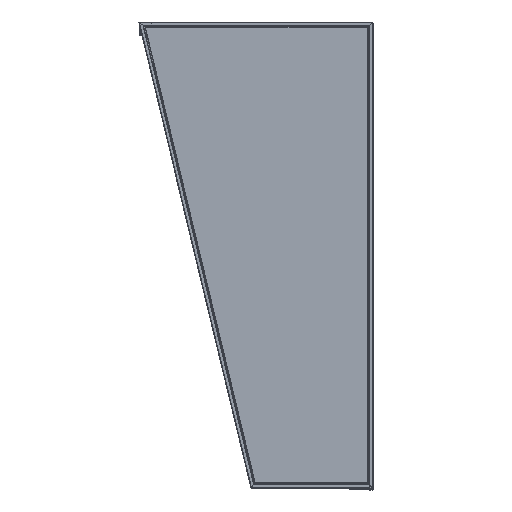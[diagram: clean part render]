
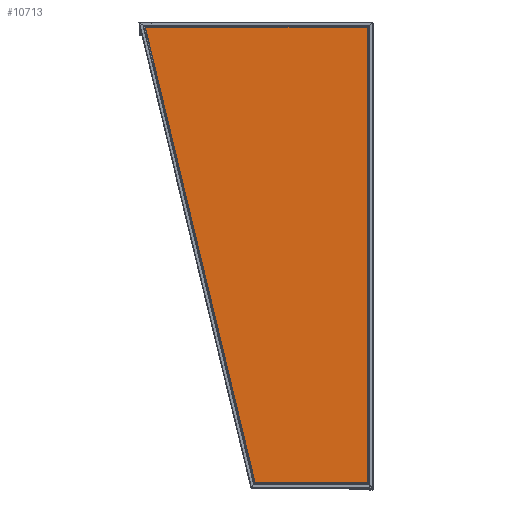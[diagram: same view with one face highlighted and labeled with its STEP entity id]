
A CAD part, top view. The second image highlights one B-rep face of the part: STEP entity #10713.
In plain terms, the highlighted planar face has unit normal (0, 0, 1) as drawn and (0, 0, -1) by its records, which use the part's own axes.
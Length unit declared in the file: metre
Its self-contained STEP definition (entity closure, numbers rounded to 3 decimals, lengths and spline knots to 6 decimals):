
#10713=ADVANCED_FACE('0:25526',(#22299),#22300,.F.);
#22299=FACE_OUTER_BOUND('',#35363,.T.);
#22300=PLANE('',#35364);
#35363=EDGE_LOOP('',(#65669,#65670,#65671,#65672));
#35364=AXIS2_PLACEMENT_3D('',#65673,#65674,#65675);
#65669=ORIENTED_EDGE('',*,*,#77932,.T.);
#65670=ORIENTED_EDGE('',*,*,#77920,.T.);
#65671=ORIENTED_EDGE('',*,*,#77925,.T.);
#65672=ORIENTED_EDGE('',*,*,#77929,.T.);
#65673=CARTESIAN_POINT('',(0.378076,-0.897905,0.0));
#65674=DIRECTION('',(0.0,0.0,1.0));
#65675=DIRECTION('',(1.0,-0.0,0.0));
#77920=EDGE_CURVE('0:25534',#95939,#95937,#95940,.T.);
#77925=EDGE_CURVE('0:25546',#95937,#95945,#95947,.T.);
#77929=EDGE_CURVE('0:25555',#95945,#95951,#95953,.T.);
#77932=EDGE_CURVE('0:25561',#95951,#95939,#95956,.T.);
#95937=VERTEX_POINT('',#120104);
#95939=VERTEX_POINT('',#120107);
#95940=LINE('',#120108,#120109);
#95945=VERTEX_POINT('',#120116);
#95947=LINE('',#120119,#120120);
#95951=VERTEX_POINT('',#120125);
#95953=LINE('',#120128,#120129);
#95956=LINE('',#120133,#120134);
#120104=CARTESIAN_POINT('',(0.491,-1.967,0.0));
#120107=CARTESIAN_POINT('',(0.965,0.,0.0));
#120108=CARTESIAN_POINT('',(0.965,0.,0.0));
#120109=VECTOR('',#136389,0.01);
#120116=CARTESIAN_POINT('',(0.,-1.967,0.0));
#120119=CARTESIAN_POINT('',(0.491,-1.967,0.0));
#120120=VECTOR('',#136393,0.01);
#120125=CARTESIAN_POINT('',(0.0,0.0,0.0));
#120128=CARTESIAN_POINT('',(0.,-1.967,0.0));
#120129=VECTOR('',#136396,0.01);
#120133=CARTESIAN_POINT('',(0.0,0.0,0.0));
#120134=VECTOR('',#136398,0.01);
#136389=DIRECTION('',(-0.234,-0.972,0.0));
#136393=DIRECTION('',(-1.0,0.0,0.0));
#136396=DIRECTION('',(0.,1.0,0.0));
#136398=DIRECTION('',(1.0,0.,0.0));
